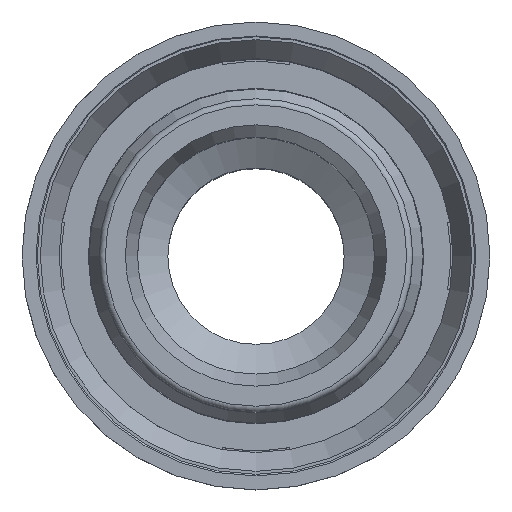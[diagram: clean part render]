
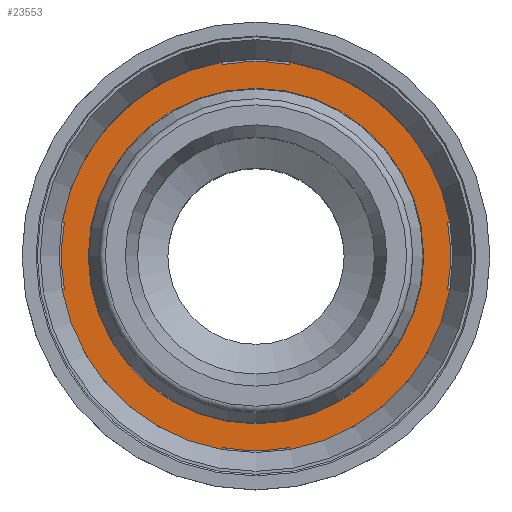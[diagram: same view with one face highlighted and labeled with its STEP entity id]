
A CAD part, top view. The second image highlights one B-rep face of the part: STEP entity #23553.
In plain terms, the highlighted planar face has unit normal (0, 0, 1) as drawn and (0, 0, -1) by its records, which use the part's own axes.
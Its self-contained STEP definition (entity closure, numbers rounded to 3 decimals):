
#171=FACE_BOUND('',#6313,.T.);
#393=PLANE('',#24922);
#1339=LINE('',#45871,#2728);
#1342=LINE('',#45882,#2731);
#1349=LINE('',#45897,#2738);
#1355=LINE('',#45913,#2744);
#1361=LINE('',#45926,#2750);
#1367=LINE('',#45939,#2756);
#1373=LINE('',#45955,#2762);
#1379=LINE('',#45971,#2768);
#2728=VECTOR('',#27519,10.);
#2731=VECTOR('',#27530,10.);
#2738=VECTOR('',#27539,10.);
#2744=VECTOR('',#27553,10.);
#2750=VECTOR('',#27561,10.);
#2756=VECTOR('',#27569,10.);
#2762=VECTOR('',#27583,10.);
#2768=VECTOR('',#27597,10.);
#4932=FACE_OUTER_BOUND('',#6312,.T.);
#6312=EDGE_LOOP('',(#19942,#19943,#19944,#19945,#19946,#19947,#19948,#19949,
#19950,#19951,#19952,#19953,#19954,#19955,#19956,#19957));
#6313=EDGE_LOOP('',(#19958,#19959));
#7226=CIRCLE('',#24850,16.);
#7228=CIRCLE('',#24855,16.);
#7230=CIRCLE('',#24861,16.);
#7232=CIRCLE('',#24865,16.);
#7249=CIRCLE('',#24889,16.2);
#7250=CIRCLE('',#24890,16.2);
#7251=CIRCLE('',#24891,16.2);
#7254=CIRCLE('',#24894,16.2);
#7271=CIRCLE('',#24920,13.8);
#7272=CIRCLE('',#24921,13.8);
#10617=VERTEX_POINT('',#45861);
#10621=VERTEX_POINT('',#45869);
#10622=VERTEX_POINT('',#45873);
#10624=VERTEX_POINT('',#45879);
#10631=VERTEX_POINT('',#45894);
#10632=VERTEX_POINT('',#45896);
#10634=VERTEX_POINT('',#45902);
#10638=VERTEX_POINT('',#45912);
#10643=VERTEX_POINT('',#45923);
#10644=VERTEX_POINT('',#45925);
#10649=VERTEX_POINT('',#45936);
#10650=VERTEX_POINT('',#45938);
#10655=VERTEX_POINT('',#45952);
#10656=VERTEX_POINT('',#45954);
#10658=VERTEX_POINT('',#45960);
#10662=VERTEX_POINT('',#45970);
#10685=VERTEX_POINT('',#46054);
#10686=VERTEX_POINT('',#46056);
#13824=EDGE_CURVE('',#10617,#10621,#1339,.T.);
#13825=EDGE_CURVE('',#10621,#10622,#7226,.T.);
#13829=EDGE_CURVE('',#10622,#10624,#1342,.T.);
#13836=EDGE_CURVE('',#10632,#10631,#1349,.T.);
#13839=EDGE_CURVE('',#10634,#10632,#7228,.T.);
#13844=EDGE_CURVE('',#10638,#10634,#1355,.T.);
#13850=EDGE_CURVE('',#10644,#10643,#1361,.T.);
#13856=EDGE_CURVE('',#10650,#10649,#1367,.T.);
#13859=EDGE_CURVE('',#10643,#10650,#7230,.T.);
#13864=EDGE_CURVE('',#10656,#10655,#1373,.T.);
#13867=EDGE_CURVE('',#10658,#10656,#7232,.T.);
#13872=EDGE_CURVE('',#10662,#10658,#1379,.T.);
#13890=EDGE_CURVE('',#10617,#10631,#7249,.T.);
#13891=EDGE_CURVE('',#10638,#10655,#7250,.T.);
#13892=EDGE_CURVE('',#10662,#10649,#7251,.T.);
#13896=EDGE_CURVE('',#10644,#10624,#7254,.T.);
#13919=EDGE_CURVE('',#10686,#10685,#7271,.T.);
#13920=EDGE_CURVE('',#10685,#10686,#7272,.T.);
#19942=ORIENTED_EDGE('',*,*,#13829,.T.);
#19943=ORIENTED_EDGE('',*,*,#13896,.F.);
#19944=ORIENTED_EDGE('',*,*,#13850,.T.);
#19945=ORIENTED_EDGE('',*,*,#13859,.T.);
#19946=ORIENTED_EDGE('',*,*,#13856,.T.);
#19947=ORIENTED_EDGE('',*,*,#13892,.F.);
#19948=ORIENTED_EDGE('',*,*,#13872,.T.);
#19949=ORIENTED_EDGE('',*,*,#13867,.T.);
#19950=ORIENTED_EDGE('',*,*,#13864,.T.);
#19951=ORIENTED_EDGE('',*,*,#13891,.F.);
#19952=ORIENTED_EDGE('',*,*,#13844,.T.);
#19953=ORIENTED_EDGE('',*,*,#13839,.T.);
#19954=ORIENTED_EDGE('',*,*,#13836,.T.);
#19955=ORIENTED_EDGE('',*,*,#13890,.F.);
#19956=ORIENTED_EDGE('',*,*,#13824,.T.);
#19957=ORIENTED_EDGE('',*,*,#13825,.T.);
#19958=ORIENTED_EDGE('',*,*,#13919,.T.);
#19959=ORIENTED_EDGE('',*,*,#13920,.T.);
#23553=ADVANCED_FACE('',(#4932,#171),#393,.T.);
#24850=AXIS2_PLACEMENT_3D('',#45874,#27522,#27523);
#24855=AXIS2_PLACEMENT_3D('',#45903,#27544,#27545);
#24861=AXIS2_PLACEMENT_3D('',#45944,#27574,#27575);
#24865=AXIS2_PLACEMENT_3D('',#45961,#27588,#27589);
#24889=AXIS2_PLACEMENT_3D('',#45999,#27642,#27643);
#24890=AXIS2_PLACEMENT_3D('',#46000,#27644,#27645);
#24891=AXIS2_PLACEMENT_3D('',#46001,#27646,#27647);
#24894=AXIS2_PLACEMENT_3D('',#46007,#27653,#27654);
#24920=AXIS2_PLACEMENT_3D('',#46057,#27711,#27712);
#24921=AXIS2_PLACEMENT_3D('',#46058,#27713,#27714);
#24922=AXIS2_PLACEMENT_3D('',#46059,#27715,#27716);
#27519=DIRECTION('',(0.985,0.174,0.));
#27522=DIRECTION('center_axis',(0.,0.,-1.));
#27523=DIRECTION('ref_axis',(0.985,-0.172,0.));
#27530=DIRECTION('',(-0.985,0.174,0.));
#27539=DIRECTION('',(-0.174,-0.985,0.));
#27544=DIRECTION('center_axis',(0.,0.,-1.));
#27545=DIRECTION('ref_axis',(0.172,0.985,0.));
#27553=DIRECTION('',(-0.174,0.985,0.));
#27561=DIRECTION('',(0.174,-0.985,0.));
#27569=DIRECTION('',(0.174,0.985,0.));
#27574=DIRECTION('center_axis',(0.,0.,-1.));
#27575=DIRECTION('ref_axis',(-0.172,-0.985,0.));
#27583=DIRECTION('',(0.985,-0.174,0.));
#27588=DIRECTION('center_axis',(0.,0.,-1.));
#27589=DIRECTION('ref_axis',(-0.985,0.172,0.));
#27597=DIRECTION('',(-0.985,-0.174,0.));
#27642=DIRECTION('center_axis',(0.,0.,1.));
#27643=DIRECTION('ref_axis',(1.,0.,0.));
#27644=DIRECTION('center_axis',(0.,0.,1.));
#27645=DIRECTION('ref_axis',(1.,0.,0.));
#27646=DIRECTION('center_axis',(0.,0.,1.));
#27647=DIRECTION('ref_axis',(1.,0.,0.));
#27653=DIRECTION('center_axis',(0.,0.,1.));
#27654=DIRECTION('ref_axis',(1.,0.,0.));
#27711=DIRECTION('center_axis',(0.,0.,1.));
#27712=DIRECTION('ref_axis',(1.,0.,0.));
#27713=DIRECTION('center_axis',(0.,0.,1.));
#27714=DIRECTION('ref_axis',(1.,0.,0.));
#27715=DIRECTION('center_axis',(0.,0.,-1.));
#27716=DIRECTION('ref_axis',(-1.,0.,0.));
#45861=CARTESIAN_POINT('',(-15.959,-2.785,6.519));
#45869=CARTESIAN_POINT('',(-15.762,-2.75,6.519));
#45871=CARTESIAN_POINT('',(-9.269,-1.605,6.519));
#45873=CARTESIAN_POINT('',(-15.762,2.75,6.519));
#45874=CARTESIAN_POINT('Origin',(0.,0.,6.519));
#45879=CARTESIAN_POINT('',(-15.959,2.785,6.519));
#45882=CARTESIAN_POINT('',(-10.235,1.776,6.519));
#45894=CARTESIAN_POINT('',(-2.785,-15.959,6.519));
#45896=CARTESIAN_POINT('',(-2.75,-15.762,6.519));
#45897=CARTESIAN_POINT('',(-3.405,-19.476,6.519));
#45902=CARTESIAN_POINT('',(2.75,-15.762,6.519));
#45903=CARTESIAN_POINT('Origin',(0.,0.,6.519));
#45912=CARTESIAN_POINT('',(2.785,-15.959,6.519));
#45913=CARTESIAN_POINT('',(2.746,-15.739,6.519));
#45923=CARTESIAN_POINT('',(-2.75,15.762,6.519));
#45925=CARTESIAN_POINT('',(-2.785,15.959,6.519));
#45926=CARTESIAN_POINT('',(0.024,0.028,6.519));
#45936=CARTESIAN_POINT('',(2.785,15.959,6.519));
#45938=CARTESIAN_POINT('',(2.75,15.762,6.519));
#45939=CARTESIAN_POINT('',(0.635,3.765,6.519));
#45944=CARTESIAN_POINT('Origin',(0.,0.,6.519));
#45952=CARTESIAN_POINT('',(15.959,-2.785,6.519));
#45954=CARTESIAN_POINT('',(15.762,-2.75,6.519));
#45955=CARTESIAN_POINT('',(13.006,-2.264,6.519));
#45960=CARTESIAN_POINT('',(15.762,2.75,6.519));
#45961=CARTESIAN_POINT('Origin',(0.,0.,6.519));
#45970=CARTESIAN_POINT('',(15.959,2.785,6.519));
#45971=CARTESIAN_POINT('',(6.498,1.117,6.519));
#45999=CARTESIAN_POINT('Origin',(0.,0.,6.519));
#46000=CARTESIAN_POINT('Origin',(0.,0.,6.519));
#46001=CARTESIAN_POINT('Origin',(0.,0.,6.519));
#46007=CARTESIAN_POINT('Origin',(0.,0.,6.519));
#46054=CARTESIAN_POINT('',(0.,13.8,6.519));
#46056=CARTESIAN_POINT('',(0.,-13.8,6.519));
#46057=CARTESIAN_POINT('Origin',(0.,0.,6.519));
#46058=CARTESIAN_POINT('Origin',(0.,0.,6.519));
#46059=CARTESIAN_POINT('Origin',(0.,-16.2,6.519));
